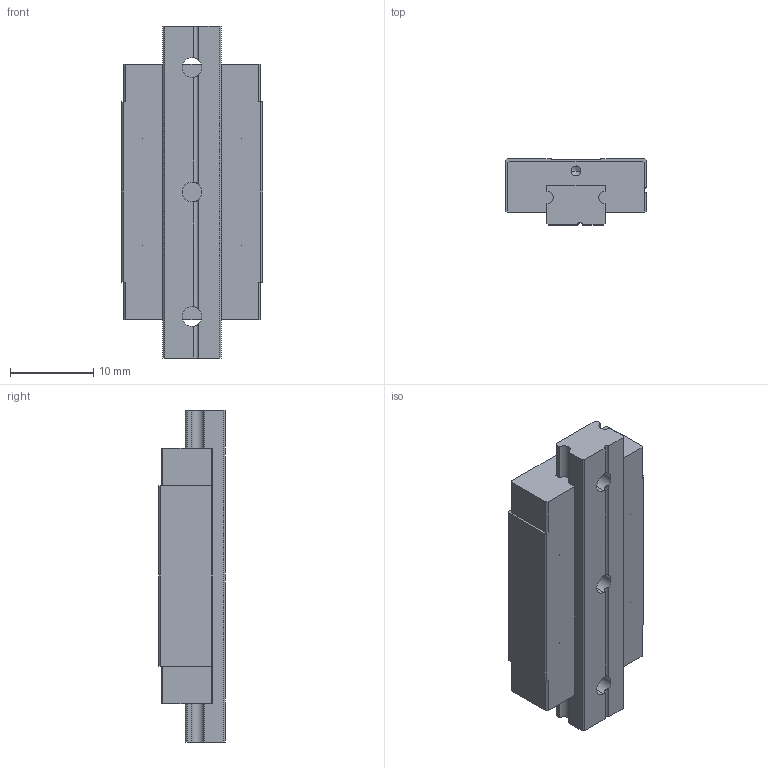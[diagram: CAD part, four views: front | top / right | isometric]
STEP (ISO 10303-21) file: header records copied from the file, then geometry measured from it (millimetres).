
FILE_DESCRIPTION (( 'STEP AP214' ), '1' );
FILE_NAME ('7.1039 Lineaarikelkka MTN7H.STEP', '2026-03-13T11:41:36', ( '' ), ( '' ), 'SwSTEP 2.0', 'SolidWorks 2025', '' );
FILE_SCHEMA (( 'AUTOMOTIVE_DESIGN' ));
Length unit declared in the file: millimetre
Products named in the file (1): 7.1039 Lineaarikelkka MTN7H
Bounding box: 17 x 8 x 40 mm (x, y, z)
Volume: 3721.9 mm3; surface area: 3220.7 mm2
Topology: 2 solids, 3 shells, 213 faces, 569 edges, 368 vertices
Faces by surface type: plane 144, cylinder 38, bspline 19, cone 12
Entity records: 10000 total; most frequent: CARTESIAN_POINT 2432, ORIENTED_EDGE 1114, DIRECTION 979, EDGE_CURVE 557, LINE 437, VECTOR 437, VERTEX_POINT 368, AXIS2_PLACEMENT_3D 271
